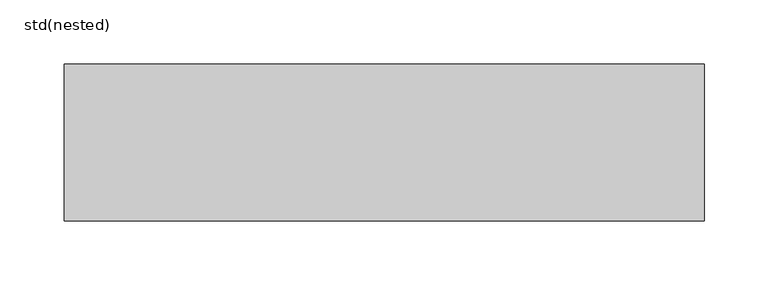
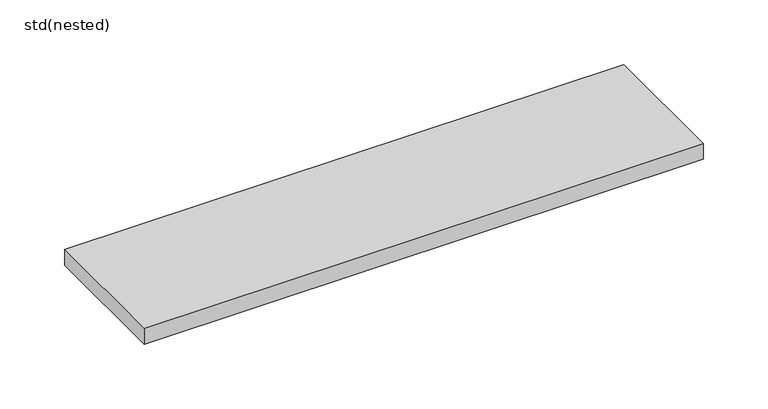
"""IFC4 building model written with IfcOpenShell, lengths in millimetres: sanitary terminal geometry, ZZZ_do not use_PF_ST_SlabDrain_H100K_gratings_USA_ACO : std(nested)."""

from ifc_helpers import new_model, si_unit, frame, origin, place, context, project, spatial, polyline, outline, extrude, source, transform, mapped, element, save


def std_nested_b26bdfad(model_context):
    return source(origin(), model_context, "Body", "SweptSolid", [
        extrude(outline(polyline([(250.0, 61.5), (250.0, -61.5), (-250.0, -61.5), (-250.0, 61.5), (250.0, 61.5)])), frame((0.0, 0.0, -98.0), z_axis=(0.0, 0.0, 1.0), x_axis=(1.0, 0.0, 0.0)), (0.0, 0.0, 1.0), 15.0),
    ])


if __name__ == "__main__":
    model = new_model("IFC4")
    model_context = context("Model", 3, world=origin())
    ifc_project = project(units=[si_unit("LENGTHUNIT", "METRE", prefix="MILLI")], contexts=[model_context])
    site = spatial("IfcSite", under=ifc_project)
    building = spatial("IfcBuilding", under=site)
    placement = place(None, origin())
    std_nested_shape = std_nested_b26bdfad(model_context)
    element("IfcSanitaryTerminal", 1, ObjectType="ZZZ_do not use_PF_ST_SlabDrain_H100K_gratings_USA_ACO : std(nested)", at=placement, inside=building, context=model_context, shape_type="MappedRepresentation", body=[
        mapped(std_nested_shape, transform((0.0, 0.0, 0.0), x_axis=(1.0, 0.0, 0.0), y_axis=(0.0, 1.0, 0.0), z_axis=(0.0, 0.0, 1.0))),
    ])
    save(model, "model.ifc")
